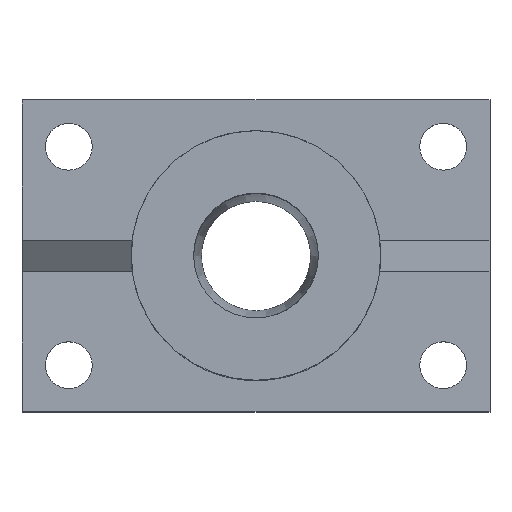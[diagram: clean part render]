
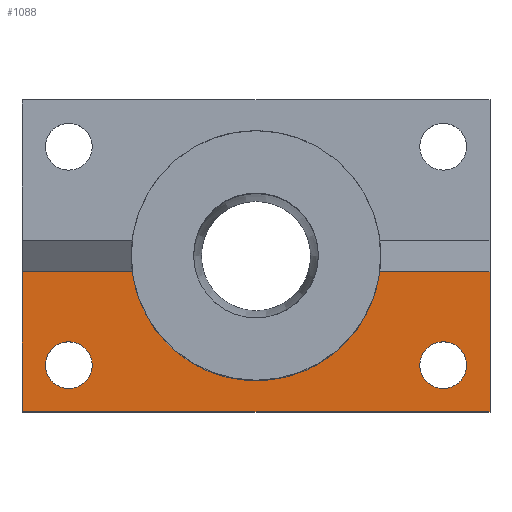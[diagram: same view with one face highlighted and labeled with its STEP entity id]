
A CAD part, top view. The second image highlights one B-rep face of the part: STEP entity #1088.
In plain terms, the highlighted planar face has unit normal (0, 0, 1).
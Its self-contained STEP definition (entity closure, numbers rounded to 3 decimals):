
#188=CARTESIAN_POINT('',(-39.686,-5.,0.));
#189=VERTEX_POINT('',#188);
#196=CARTESIAN_POINT('',(39.686,-5.,0.));
#197=VERTEX_POINT('',#196);
#198=CARTESIAN_POINT('',(0.,0.,0.));
#199=DIRECTION('',(0.,0.,1.));
#200=DIRECTION('',(-1.,0.,0.));
#201=AXIS2_PLACEMENT_3D('',#198,#199,#200);
#202=CIRCLE('',#201,40.);
#203=EDGE_CURVE('',#189,#197,#202,.T.);
#606=CARTESIAN_POINT('',(60.,-50.,0.));
#607=VERTEX_POINT('',#606);
#608=CARTESIAN_POINT('',(75.,-50.,0.));
#609=VERTEX_POINT('',#608);
#610=CARTESIAN_POINT('',(60.,-50.,0.));
#611=DIRECTION('',(1.,0.,-0.));
#612=VECTOR('',#611,15.);
#613=LINE('',#610,#612);
#614=EDGE_CURVE('',#607,#609,#613,.T.);
#616=CARTESIAN_POINT('',(-60.,-50.,0.));
#617=VERTEX_POINT('',#616);
#618=CARTESIAN_POINT('',(-60.,-50.,0.));
#619=DIRECTION('',(1.,-0.,0.));
#620=VECTOR('',#619,120.);
#621=LINE('',#618,#620);
#622=EDGE_CURVE('',#617,#607,#621,.T.);
#624=CARTESIAN_POINT('',(-75.,-50.,0.));
#625=VERTEX_POINT('',#624);
#626=CARTESIAN_POINT('',(-75.,-50.,0.));
#627=DIRECTION('',(1.,0.,-0.));
#628=VECTOR('',#627,15.);
#629=LINE('',#626,#628);
#630=EDGE_CURVE('',#625,#617,#629,.T.);
#680=CARTESIAN_POINT('',(75.,-5.,0.));
#681=VERTEX_POINT('',#680);
#688=CARTESIAN_POINT('',(75.,-35.,0.));
#689=VERTEX_POINT('',#688);
#690=CARTESIAN_POINT('',(75.,-35.,0.));
#691=DIRECTION('',(0.,1.,0.));
#692=VECTOR('',#691,30.);
#693=LINE('',#690,#692);
#694=EDGE_CURVE('',#689,#681,#693,.T.);
#696=CARTESIAN_POINT('',(75.,-50.,0.));
#697=DIRECTION('',(0.,1.,0.));
#698=VECTOR('',#697,15.);
#699=LINE('',#696,#698);
#700=EDGE_CURVE('',#609,#689,#699,.T.);
#818=CARTESIAN_POINT('',(67.5,-35.,0.));
#819=VERTEX_POINT('',#818);
#828=CARTESIAN_POINT('',(52.5,-35.,0.));
#829=VERTEX_POINT('',#828);
#830=CARTESIAN_POINT('',(60.,-35.,0.));
#831=DIRECTION('',(0.,0.,1.));
#832=DIRECTION('',(-1.,0.,0.));
#833=AXIS2_PLACEMENT_3D('',#830,#831,#832);
#834=CIRCLE('',#833,7.5);
#835=EDGE_CURVE('',#819,#829,#834,.T.);
#837=CARTESIAN_POINT('',(60.,-35.,0.));
#838=DIRECTION('',(0.,0.,1.));
#839=DIRECTION('',(-1.,0.,0.));
#840=AXIS2_PLACEMENT_3D('',#837,#838,#839);
#841=CIRCLE('',#840,7.5);
#842=EDGE_CURVE('',#829,#819,#841,.T.);
#869=CARTESIAN_POINT('',(-52.5,-35.,0.));
#870=VERTEX_POINT('',#869);
#879=CARTESIAN_POINT('',(-67.5,-35.,0.));
#880=VERTEX_POINT('',#879);
#881=CARTESIAN_POINT('',(-60.,-35.,0.));
#882=DIRECTION('',(0.,0.,1.));
#883=DIRECTION('',(-1.,0.,0.));
#884=AXIS2_PLACEMENT_3D('',#881,#882,#883);
#885=CIRCLE('',#884,7.5);
#886=EDGE_CURVE('',#870,#880,#885,.T.);
#888=CARTESIAN_POINT('',(-60.,-35.,0.));
#889=DIRECTION('',(0.,0.,1.));
#890=DIRECTION('',(-1.,0.,0.));
#891=AXIS2_PLACEMENT_3D('',#888,#889,#890);
#892=CIRCLE('',#891,7.5);
#893=EDGE_CURVE('',#880,#870,#892,.T.);
#920=CARTESIAN_POINT('',(-75.,-35.,0.));
#921=VERTEX_POINT('',#920);
#922=CARTESIAN_POINT('',(-75.,-35.,0.));
#923=DIRECTION('',(-0.,-1.,0.));
#924=VECTOR('',#923,15.);
#925=LINE('',#922,#924);
#926=EDGE_CURVE('',#921,#625,#925,.T.);
#928=CARTESIAN_POINT('',(-75.,-5.,0.));
#929=VERTEX_POINT('',#928);
#930=CARTESIAN_POINT('',(-75.,-5.,0.));
#931=DIRECTION('',(-0.,-1.,0.));
#932=VECTOR('',#931,30.);
#933=LINE('',#930,#932);
#934=EDGE_CURVE('',#929,#921,#933,.T.);
#1053=CARTESIAN_POINT('',(0.,0.,0.));
#1054=DIRECTION('',(0.,0.,1.));
#1055=DIRECTION('',(-1.,0.,0.));
#1056=AXIS2_PLACEMENT_3D('',#1053,#1054,#1055);
#1057=PLANE('',#1056);
#1058=CARTESIAN_POINT('',(39.686,-5.,0.));
#1059=DIRECTION('',(1.,0.,-0.));
#1060=VECTOR('',#1059,35.314);
#1061=LINE('',#1058,#1060);
#1062=EDGE_CURVE('',#197,#681,#1061,.T.);
#1063=ORIENTED_EDGE('',*,*,#1062,.F.);
#1064=ORIENTED_EDGE('',*,*,#203,.F.);
#1065=CARTESIAN_POINT('',(-75.,-5.,0.));
#1066=DIRECTION('',(1.,0.,-0.));
#1067=VECTOR('',#1066,35.314);
#1068=LINE('',#1065,#1067);
#1069=EDGE_CURVE('',#929,#189,#1068,.T.);
#1070=ORIENTED_EDGE('',*,*,#1069,.F.);
#1071=ORIENTED_EDGE('',*,*,#934,.T.);
#1072=ORIENTED_EDGE('',*,*,#926,.T.);
#1073=ORIENTED_EDGE('',*,*,#630,.T.);
#1074=ORIENTED_EDGE('',*,*,#622,.T.);
#1075=ORIENTED_EDGE('',*,*,#614,.T.);
#1076=ORIENTED_EDGE('',*,*,#700,.T.);
#1077=ORIENTED_EDGE('',*,*,#694,.T.);
#1078=EDGE_LOOP('',(#1063,#1064,#1070,#1071,#1072,#1073,#1074,#1075,#1076,#1077));
#1079=FACE_BOUND('',#1078,.T.);
#1080=ORIENTED_EDGE('',*,*,#886,.F.);
#1081=ORIENTED_EDGE('',*,*,#893,.F.);
#1082=EDGE_LOOP('',(#1080,#1081));
#1083=FACE_BOUND('',#1082,.T.);
#1084=ORIENTED_EDGE('',*,*,#835,.F.);
#1085=ORIENTED_EDGE('',*,*,#842,.F.);
#1086=EDGE_LOOP('',(#1084,#1085));
#1087=FACE_BOUND('',#1086,.T.);
#1088=ADVANCED_FACE('',(#1079,#1083,#1087),#1057,.T.);
